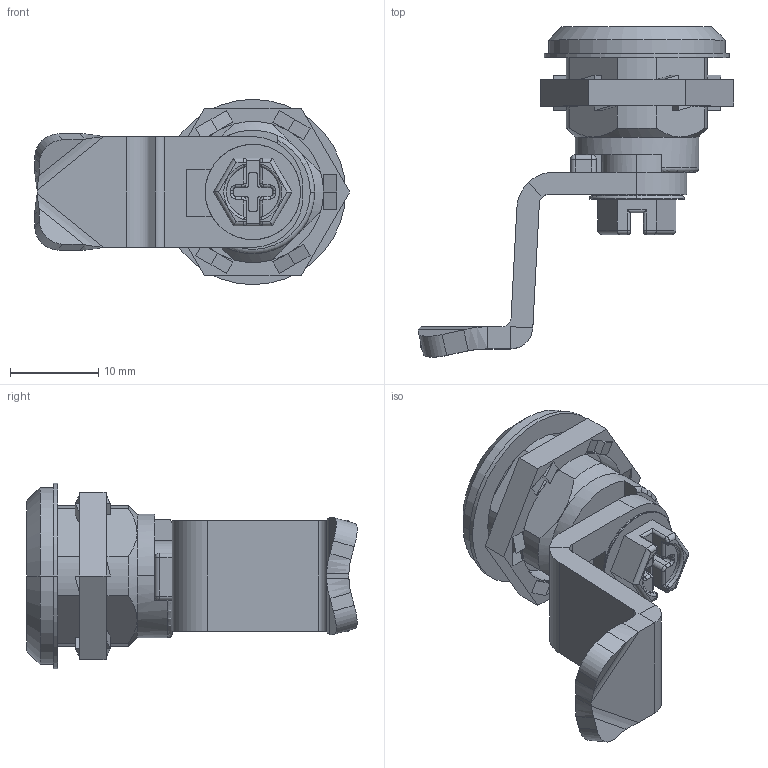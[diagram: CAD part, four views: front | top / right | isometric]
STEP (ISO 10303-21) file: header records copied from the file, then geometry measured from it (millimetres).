
FILE_DESCRIPTION((''),'2;1');
FILE_NAME('100938_ASM','2017-12-01T13:27:49',('Eplan'),('SAGINAW CONTROL & ENGINEERING'),'CREO PARAMETRIC BY PTC INC, 2017260','CREO PARAMETRIC BY PTC INC, 2017260','');
FILE_SCHEMA(('AUTOMOTIVE_DESIGN { 1 0 10303 214 1 1 1 1 }'));
Length unit declared in the file: inch
Products named in the file (7): 100938_SHAFT; 100938_INSERT; 100938_SEALING-WASHER; 100938_NUT; 105419; 100938_SCREW; 100938_ASM
Assembly tree (6 placements, depth 2):
  100938_ASM
    100938_SHAFT
    100938_INSERT
    100938_SEALING-WASHER
    100938_NUT
    105419
    100938_SCREW
Bounding box: 35.74 x 37.45 x 21 mm (x, y, z)
Volume: 4694.1 mm3; surface area: 5577.7 mm2
Topology: 6 solids, 6 shells, 424 faces, 1088 edges, 672 vertices
Faces by surface type: plane 246, cylinder 136, torus 12, bspline 12, cone 10, sphere 8
Entity records: 14753 total; most frequent: CARTESIAN_POINT 2692, DIRECTION 2232, ORIENTED_EDGE 2144, EDGE_CURVE 1072, AXIS2_PLACEMENT_3D 775, VECTOR 682, LINE 682, VERTEX_POINT 668
